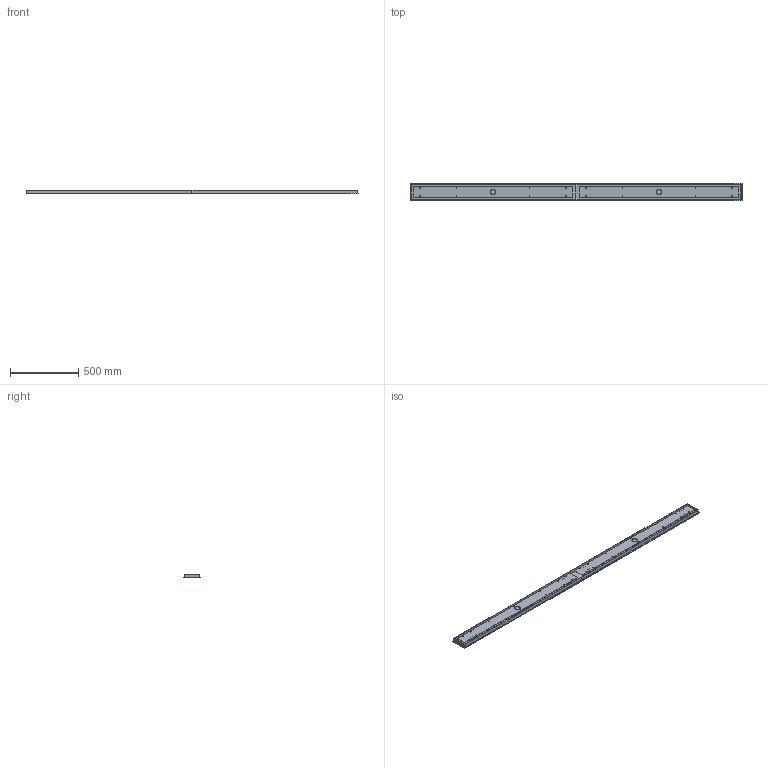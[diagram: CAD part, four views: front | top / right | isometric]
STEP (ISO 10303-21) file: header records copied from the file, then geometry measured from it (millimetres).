
FILE_DESCRIPTION(/* description */ (''),/* implementation_level */ '2;1');
FILE_NAME(/* name */ 'SkLO_Linear_Canopy_8''_MCL08_3D',/* time_stamp */ '2024-10-18T17:31:34+02:00',/* author */ (''),/* organization */ (''),/* preprocessor_version */ 'ST-DEVELOPER v16.5',/* originating_system */ 'Rhino 7.34',/* authorisation */ '');
FILE_SCHEMA (('CONFIG_CONTROL_DESIGN'));
Length unit declared in the file: millimetre
Products named in the file (1): Document
Bounding box: 2440 x 127 x 28.3 mm (x, y, z)
Volume: 1865133.6 mm3; surface area: 1290445.7 mm2
Topology: 4 solids, 16 shells, 336 faces, 862 edges, 566 vertices
Faces by surface type: cylinder 134, plane 126, bspline 76
Full cylindrical faces by diameter (mm): 3 x32, 5.249 x12, 6 x24, 6.2 x28, 10 x12, 40 x2
Entity records: 15241 total; most frequent: CARTESIAN_POINT 9782, ORIENTED_EDGE 1616, EDGE_CURVE 814, VERTEX_POINT 524, EDGE_LOOP 454, B_SPLINE_CURVE_WITH_KNOTS 348, ADVANCED_FACE 336, FACE_OUTER_BOUND 336
